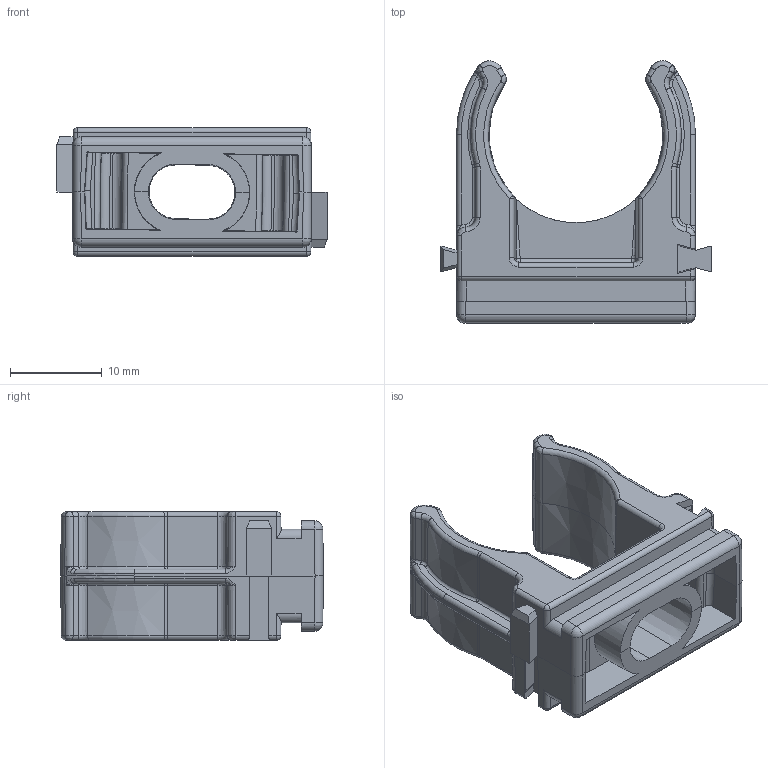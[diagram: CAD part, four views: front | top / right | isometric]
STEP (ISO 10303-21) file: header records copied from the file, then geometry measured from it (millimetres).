
FILE_DESCRIPTION(/* description */ (''),/* implementation_level */ '2;1');
FILE_NAME(/* name */ '4006997.stp',/* time_stamp */ '2019-10-29T08:10:03+01:00',/* author */ (''),/* organization */ (''),/* preprocessor_version */ 'ST-DEVELOPER v16.7',/* originating_system */ 'SIEMENS PLM Software NX 1888',/* authorisation */ '');
FILE_SCHEMA (('AUTOMOTIVE_DESIGN { 1 0 10303 214 3 1 1 1 }'));
Length unit declared in the file: millimetre
Products named in the file (1): BSOM3B98A10F4k80
Bounding box: 29.4 x 28.58 x 14 mm (x, y, z)
Volume: 3226.6 mm3; surface area: 3637.7 mm2
Topology: 1 solids, 1 shells, 313 faces, 790 edges, 458 vertices
Faces by surface type: plane 97, cylinder 76, torus 47, bspline 44, cone 33, sphere 10, revolution 6
Entity records: 11017 total; most frequent: CARTESIAN_POINT 3867, ORIENTED_EDGE 1538, DIRECTION 1452, EDGE_CURVE 769, AXIS2_PLACEMENT_3D 553, VERTEX_POINT 458, LINE 340, VECTOR 340
